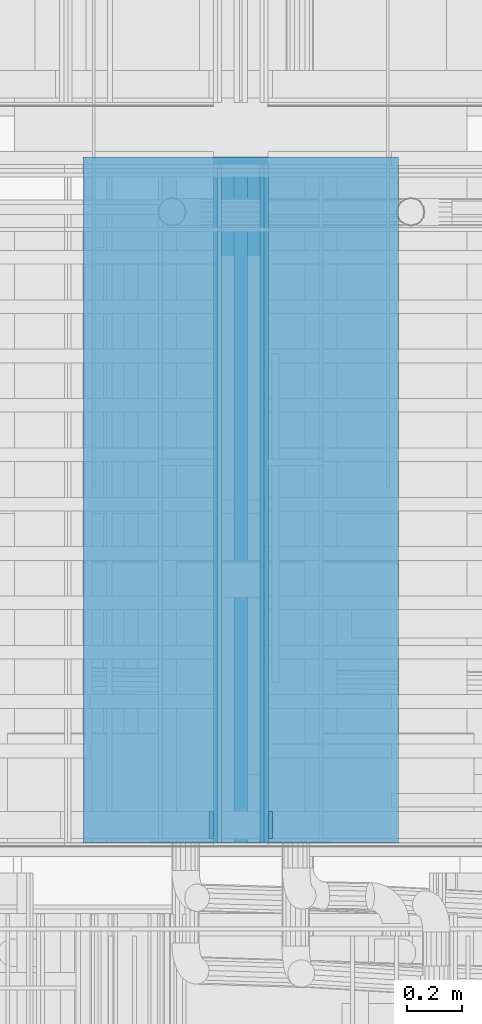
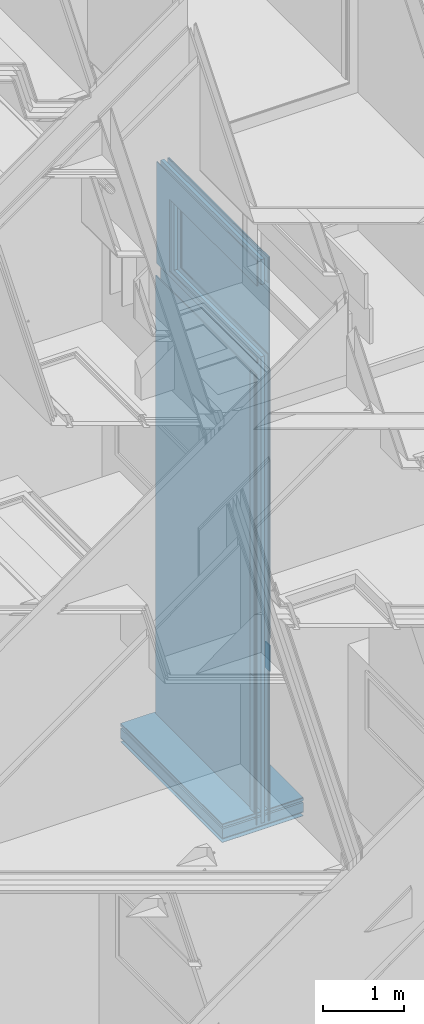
# One storey, part 148 of 583: 17 building element parts, 1 opening, 2 elements without a shape of their own.
"""IFC2X3 building model written with IfcOpenShell, lengths in metres."""

from ifc_helpers import new_model, entity, si_unit, converted_unit, derived_unit, money_unit, direction, frame, frame_2d, origin_with_axes, place, context, subcontext, project, spatial, rectangle, extrude, material, type_object, element, aggregate, save


model = new_model("IFC2X3")

# Units and contexts
model_context = context("Model", 3, precision=1e-05, world=origin_with_axes(), true_north=direction((0.0, 1.0)))
body_context = subcontext(model_context, "Body", "Model", "MODEL_VIEW", scale=1.0)
ifc_project = project(units=[si_unit("LENGTHUNIT", "METRE"), si_unit("AREAUNIT", "SQUARE_METRE"), si_unit("VOLUMEUNIT", "CUBIC_METRE"), si_unit("ABSORBEDDOSEUNIT", "GRAY"), si_unit("AMOUNTOFSUBSTANCEUNIT", "MOLE"), si_unit("DOSEEQUIVALENTUNIT", "SIEVERT"), si_unit("ELECTRICCAPACITANCEUNIT", "FARAD"), si_unit("ELECTRICCHARGEUNIT", "COULOMB"), si_unit("ELECTRICCONDUCTANCEUNIT", "SIEMENS"), si_unit("ELECTRICCURRENTUNIT", "AMPERE"), si_unit("ELECTRICRESISTANCEUNIT", "OHM"), si_unit("ELECTRICVOLTAGEUNIT", "VOLT"), si_unit("ENERGYUNIT", "JOULE"), si_unit("FORCEUNIT", "NEWTON"), si_unit("FREQUENCYUNIT", "HERTZ"), si_unit("ILLUMINANCEUNIT", "LUX"), si_unit("INDUCTANCEUNIT", "HENRY"), si_unit("LUMINOUSFLUXUNIT", "LUMEN"), si_unit("LUMINOUSINTENSITYUNIT", "CANDELA"), si_unit("MAGNETICFLUXDENSITYUNIT", "TESLA"), si_unit("MAGNETICFLUXUNIT", "WEBER"), si_unit("MASSUNIT", "GRAM"), converted_unit("PLANEANGLEUNIT", "degree", entity("IfcReal", 0.0174532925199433), si_unit("PLANEANGLEUNIT", "RADIAN"), dimensions=[0, 0, 0, 0, 0, 0, 0]), si_unit("POWERUNIT", "WATT"), si_unit("PRESSUREUNIT", "PASCAL"), si_unit("RADIOACTIVITYUNIT", "BECQUEREL"), si_unit("SOLIDANGLEUNIT", "STERADIAN"), si_unit("THERMODYNAMICTEMPERATUREUNIT", "KELVIN"), si_unit("TIMEUNIT", "SECOND"), derived_unit("ACCELERATIONUNIT", [(si_unit("LENGTHUNIT", "METRE"), 1), (si_unit("TIMEUNIT", "SECOND"), -2)]), derived_unit("ANGULARVELOCITYUNIT", [(converted_unit("PLANEANGLEUNIT", "degree", entity("IfcReal", 0.0174532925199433), si_unit("PLANEANGLEUNIT", "RADIAN"), dimensions=[0, 0, 0, 0, 0, 0, 0]), 1), (si_unit("TIMEUNIT", "SECOND"), -1)]), derived_unit("CURVATUREUNIT", [(converted_unit("PLANEANGLEUNIT", "degree", entity("IfcReal", 0.0174532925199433), si_unit("PLANEANGLEUNIT", "RADIAN"), dimensions=[0, 0, 0, 0, 0, 0, 0]), 1), (si_unit("LENGTHUNIT", "METRE"), -1)]), derived_unit("DYNAMICVISCOSITYUNIT", [(si_unit("PRESSUREUNIT", "PASCAL"), 1), (si_unit("TIMEUNIT", "SECOND"), 1)]), derived_unit("HEATFLUXDENSITYUNIT", [(si_unit("POWERUNIT", "WATT"), 1), (si_unit("LENGTHUNIT", "METRE"), -2)]), derived_unit("HEATINGVALUEUNIT", [(si_unit("ENERGYUNIT", "JOULE"), 1), (si_unit("MASSUNIT", "GRAM"), -1)]), derived_unit("INTEGERCOUNTRATEUNIT", [(si_unit("TIMEUNIT", "SECOND"), -1)]), derived_unit("IONCONCENTRATIONUNIT", [(si_unit("MASSUNIT", "GRAM"), 1), (si_unit("VOLUMEUNIT", "CUBIC_METRE"), -1)]), derived_unit("ISOTHERMALMOISTURECAPACITYUNIT", [(si_unit("VOLUMEUNIT", "CUBIC_METRE"), 1), (si_unit("MASSUNIT", "GRAM"), -1)]), derived_unit("KINEMATICVISCOSITYUNIT", [(si_unit("AREAUNIT", "SQUARE_METRE"), 1), (si_unit("TIMEUNIT", "SECOND"), -1)]), derived_unit("LINEARFORCEUNIT", [(si_unit("FORCEUNIT", "NEWTON"), 1), (si_unit("LENGTHUNIT", "METRE"), -1)]), derived_unit("LINEARMOMENTUNIT", [(si_unit("FORCEUNIT", "NEWTON"), 1), (si_unit("LENGTHUNIT", "METRE"), -1)]), derived_unit("LINEARSTIFFNESSUNIT", [(si_unit("FORCEUNIT", "NEWTON"), 1), (si_unit("LENGTHUNIT", "METRE"), -1)]), derived_unit("LINEARVELOCITYUNIT", [(si_unit("LENGTHUNIT", "METRE"), 1), (si_unit("TIMEUNIT", "SECOND"), -1)]), derived_unit("LUMINOUSINTENSITYDISTRIBUTIONUNIT", [(si_unit("LUMINOUSINTENSITYUNIT", "CANDELA"), 1), (si_unit("LUMINOUSFLUXUNIT", "LUMEN"), -1)]), derived_unit("MASSDENSITYUNIT", [(si_unit("MASSUNIT", "GRAM"), 1), (si_unit("VOLUMEUNIT", "CUBIC_METRE"), -1)]), derived_unit("MASSFLOWRATEUNIT", [(si_unit("MASSUNIT", "GRAM"), 1), (si_unit("TIMEUNIT", "SECOND"), -1)]), derived_unit("MASSPERLENGTHUNIT", [(si_unit("MASSUNIT", "GRAM"), 1), (si_unit("LENGTHUNIT", "METRE"), -1)]), derived_unit("MODULUSOFELASTICITYUNIT", [(si_unit("FORCEUNIT", "NEWTON"), 1), (si_unit("AREAUNIT", "SQUARE_METRE"), -1)]), derived_unit("MODULUSOFLINEARSUBGRADEREACTIONUNIT", [(si_unit("FORCEUNIT", "NEWTON"), 1), (si_unit("LENGTHUNIT", "METRE"), -2)]), derived_unit("MODULUSOFROTATIONALSUBGRADEREACTIONUNIT", [(si_unit("FORCEUNIT", "NEWTON"), 1), (si_unit("LENGTHUNIT", "METRE"), 1)]), derived_unit("MODULUSOFSUBGRADEREACTIONUNIT", [(si_unit("FORCEUNIT", "NEWTON"), 1), (si_unit("VOLUMEUNIT", "CUBIC_METRE"), -1)]), derived_unit("MOISTUREDIFFUSIVITYUNIT", [(si_unit("VOLUMEUNIT", "CUBIC_METRE"), 1), (si_unit("TIMEUNIT", "SECOND"), -1)]), derived_unit("MOLECULARWEIGHTUNIT", [(si_unit("MASSUNIT", "GRAM"), 1), (si_unit("AMOUNTOFSUBSTANCEUNIT", "MOLE"), -1)]), derived_unit("PLANARFORCEUNIT", [(si_unit("FORCEUNIT", "NEWTON"), 1), (si_unit("LENGTHUNIT", "METRE"), -2)]), derived_unit("ROTATIONALFREQUENCYUNIT", [(si_unit("TIMEUNIT", "SECOND"), -1)]), derived_unit("ROTATIONALMASSUNIT", [(si_unit("MASSUNIT", "GRAM"), 1), (si_unit("LENGTHUNIT", "METRE"), 2)]), derived_unit("ROTATIONALSTIFFNESSUNIT", [(si_unit("FORCEUNIT", "NEWTON"), 1), (si_unit("LENGTHUNIT", "METRE"), 1), (converted_unit("PLANEANGLEUNIT", "degree", entity("IfcReal", 0.0174532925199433), si_unit("PLANEANGLEUNIT", "RADIAN"), dimensions=[0, 0, 0, 0, 0, 0, 0]), -1)]), derived_unit("SECTIONAREAINTEGRALUNIT", [(si_unit("LENGTHUNIT", "METRE"), 5)]), derived_unit("SECTIONMODULUSUNIT", [(si_unit("LENGTHUNIT", "METRE"), 3)]), derived_unit("SHEARMODULUSUNIT", [(si_unit("FORCEUNIT", "NEWTON"), 1), (si_unit("AREAUNIT", "SQUARE_METRE"), -1)]), derived_unit("SOUNDPOWERUNIT", [(si_unit("ENERGYUNIT", "JOULE"), 1), (si_unit("TIMEUNIT", "SECOND"), -1)]), derived_unit("SPECIFICHEATCAPACITYUNIT", [(si_unit("FORCEUNIT", "NEWTON"), 1), (si_unit("MASSUNIT", "GRAM"), -1), (si_unit("THERMODYNAMICTEMPERATUREUNIT", "KELVIN"), -1)]), derived_unit("TEMPERATUREGRADIENTUNIT", [(si_unit("THERMODYNAMICTEMPERATUREUNIT", "KELVIN"), 1), (si_unit("LENGTHUNIT", "METRE"), -1)]), derived_unit("THERMALADMITTANCEUNIT", [(si_unit("POWERUNIT", "WATT"), 1), (si_unit("AREAUNIT", "SQUARE_METRE"), -1), (si_unit("THERMODYNAMICTEMPERATUREUNIT", "KELVIN"), -1)]), derived_unit("THERMALCONDUCTANCEUNIT", [(si_unit("POWERUNIT", "WATT"), 1), (si_unit("LENGTHUNIT", "METRE"), -1), (si_unit("THERMODYNAMICTEMPERATUREUNIT", "KELVIN"), -1)]), derived_unit("THERMALEXPANSIONCOEFFICIENTUNIT", [(si_unit("THERMODYNAMICTEMPERATUREUNIT", "KELVIN"), -1)]), derived_unit("THERMALRESISTANCEUNIT", [(si_unit("AREAUNIT", "SQUARE_METRE"), 1), (si_unit("POWERUNIT", "WATT"), -1)]), derived_unit("THERMALTRANSMITTANCEUNIT", [(si_unit("POWERUNIT", "WATT"), 1), (si_unit("AREAUNIT", "SQUARE_METRE"), -1), (si_unit("THERMODYNAMICTEMPERATUREUNIT", "KELVIN"), -1)]), derived_unit("TORQUEUNIT", [(si_unit("FORCEUNIT", "NEWTON"), 1), (si_unit("LENGTHUNIT", "METRE"), 1)]), derived_unit("VAPORPERMEABILITYUNIT", [(si_unit("MASSUNIT", "GRAM"), 1), (si_unit("TIMEUNIT", "SECOND"), -1)]), derived_unit("VOLUMETRICFLOWRATEUNIT", [(si_unit("VOLUMEUNIT", "CUBIC_METRE"), 1), (si_unit("TIMEUNIT", "SECOND"), -1)]), derived_unit("WARPINGCONSTANTUNIT", [(si_unit("LENGTHUNIT", "METRE"), 6)]), derived_unit("WARPINGMOMENTUNIT", [(si_unit("FORCEUNIT", "NEWTON"), 1), (si_unit("LENGTHUNIT", "METRE"), 2)]), money_unit("GBP")], contexts=[model_context])

# Site, building, storey
site_placement = place(None, origin_with_axes())
site = spatial("IfcSite", under=ifc_project, at=site_placement, Name="Site", CompositionType="ELEMENT")
building_placement = place(site_placement, origin_with_axes())
building = spatial("IfcBuilding", under=site, at=building_placement, Name="Building01", CompositionType="ELEMENT")
storey_placement = place(building_placement, frame((0.0, 0.0, 20.78), z_axis=(0.0, 0.0, 1.0), x_axis=(1.0, 0.0, 0.0)))
storey = spatial("IfcBuildingStorey", under=building, at=storey_placement, Name="RL", CompositionType="ELEMENT", Elevation=20.78)

# Wall, opening, building element parts
wall_type_1 = type_object("IfcWallType", Name="SHE_A-Walls_Type01d_Partywall_200mm_twin", PredefinedType="NOTDEFINED")
wall_1_placement = place(storey_placement, frame((7.425061, 14.98, -11.72), z_axis=(0.0, 1.0, 0.0), x_axis=(0.0, 0.0, -1.0)))
wall_1 = element("IfcWall", 1, at=wall_1_placement, inside=storey, type_object=wall_type_1, Name="1D", ObjectType="SHE_A-Walls_Type01d_Partywall_200mm_twin")
opening_placement = place(wall_1_placement, frame((0.374, 0.075, 0.0), z_axis=(0.0, 0.0, 1.0), x_axis=(1.0, 0.0, 0.0)))
element("IfcOpeningElement", 2, at=opening_placement, cuts=wall_1, Name="Opening", ObjectType="Opening", context=body_context, shape_type="SweptSolid", body=[
    extrude(rectangle(XDim=2.142, YDim=1.084, at=frame_2d((-0.542, 1.071), x_axis=(0.0, -1.0))), frame((0.0, -0.1875, 0.0), z_axis=(0.0, 1.0, 0.0), x_axis=(-1.0, 0.0, 0.0)), (0.0, 0.0, 1.0), 0.375),
])
ifc_material_1 = material(Name="A_BSUK_Insulation")
placement_1 = place(wall_1_placement, origin_with_axes())
building_element_part_1 = element("IfcBuildingElementPart", 3, at=placement_1, material=ifc_material_1, Name="1", context=body_context, shape_type="SweptSolid", body=[
    extrude(rectangle(XDim=8.460061, YDim=0.05, at=frame_2d((4.23003, -0.025), x_axis=(-1.0, 0.0))), origin_with_axes(), (0.0, 0.0, 1.0), 2.468),
])
ifc_material_2 = material(Name="A_BSUK_Walls_Timber")
building_element_part_2 = element("IfcBuildingElementPart", 4, at=placement_1, material=ifc_material_2, Name="2", context=body_context, shape_type="SweptSolid", body=[
    extrude(rectangle(XDim=0.394909, YDim=0.015, at=frame_2d((6.037454, -0.1325), x_axis=(-1.0, 0.0))), frame((0.0, 0.0, 0.015), z_axis=(0.0, 0.0, 1.0), x_axis=(1.0, 0.0, 0.0)), (0.0, 0.0, 1.0), 0.1),
])
building_element_part_3 = element("IfcBuildingElementPart", 5, at=placement_1, material=ifc_material_2, Name="3", context=body_context, shape_type="SweptSolid", body=[
    extrude(rectangle(XDim=0.394909, YDim=0.015, at=frame_2d((6.037454, -0.1325), x_axis=(-1.0, 0.0))), frame((0.0, 0.0, 0.015), z_axis=(0.0, 0.0, 1.0), x_axis=(1.0, 0.0, 0.0)), (0.0, 0.0, 1.0), 0.1),
])
ifc_material_3 = material(Name="A_BSUK_WallInternal_Finishes_Plasterboard")
building_element_part_4 = element("IfcBuildingElementPart", 6, at=placement_1, material=ifc_material_3, Name="4", context=body_context, shape_type="SweptSolid", body=[
    extrude(rectangle(XDim=6.234909, YDim=0.015, at=frame_2d((3.117454, -0.1175), x_axis=(-1.0, 0.0))), origin_with_axes(), (0.0, 0.0, 1.0), 2.468),
])
building_element_part_5 = element("IfcBuildingElementPart", 7, at=placement_1, material=ifc_material_3, Name="5", context=body_context, shape_type="SweptSolid", body=[
    extrude(rectangle(XDim=6.234909, YDim=0.015, at=frame_2d((3.117454, -0.1025), x_axis=(-1.0, 0.0))), origin_with_axes(), (0.0, 0.0, 1.0), 2.468),
])
building_element_part_6 = element("IfcBuildingElementPart", 8, at=placement_1, material=ifc_material_3, Name="6", context=body_context, shape_type="SweptSolid", body=[
    extrude(rectangle(XDim=0.015, YDim=1.53, at=frame_2d((0.765, 0.0525), x_axis=(0.0, -1.0))), origin_with_axes(), (0.0, 0.0, 1.0), 2.468),
])
building_element_part_7 = element("IfcBuildingElementPart", 9, at=placement_1, material=ifc_material_3, Name="7", context=body_context, shape_type="SweptSolid", body=[
    extrude(rectangle(XDim=6.760061, YDim=0.015, at=frame_2d((5.08003, 0.0675), x_axis=(-1.0, 0.0))), origin_with_axes(), (0.0, 0.0, 1.0), 2.468),
])
building_element_part_8 = element("IfcBuildingElementPart", 10, at=placement_1, material=ifc_material_2, Name="8", context=body_context, shape_type="SweptSolid", body=[
    extrude(rectangle(XDim=4.584909, YDim=0.015, at=frame_2d((3.992454, 0.0825), x_axis=(-1.0, 0.0))), frame((0.0, 0.0, 0.015), z_axis=(0.0, 0.0, 1.0), x_axis=(1.0, 0.0, 0.0)), (0.0, 0.0, 1.0), 0.1),
])
building_element_part_9 = element("IfcBuildingElementPart", 11, at=placement_1, material=ifc_material_2, Name="9", context=body_context, shape_type="SweptSolid", body=[
    extrude(rectangle(XDim=4.045, YDim=0.015, at=frame_2d((3.7225, -0.1325), x_axis=(-1.0, 0.0))), frame((0.0, 0.0, 0.015), z_axis=(0.0, 0.0, 1.0), x_axis=(1.0, 0.0, 0.0)), (0.0, 0.0, 1.0), 0.1),
])
building_element_part_10 = element("IfcBuildingElementPart", 12, at=placement_1, material=ifc_material_3, Name="10", context=body_context, shape_type="SweptSolid", body=[
    extrude(rectangle(XDim=6.775061, YDim=0.015, at=frame_2d((5.07253, -0.1175), x_axis=(-1.0, 0.0))), origin_with_axes(), (0.0, 0.0, 1.0), 2.468),
])
building_element_part_11 = element("IfcBuildingElementPart", 13, at=placement_1, material=ifc_material_3, Name="11", context=body_context, shape_type="SweptSolid", body=[
    extrude(rectangle(XDim=6.790061, YDim=0.015, at=frame_2d((5.06503, -0.1025), x_axis=(-1.0, 0.0))), origin_with_axes(), (0.0, 0.0, 1.0), 2.468),
])
building_element_part_12 = element("IfcBuildingElementPart", 14, at=placement_1, material=ifc_material_2, Name="12", context=body_context, shape_type="SweptSolid", body=[
    extrude(rectangle(XDim=2.225152, YDim=0.015, at=frame_2d((7.347485, 0.0825), x_axis=(-1.0, 0.0))), frame((0.0, 0.0, 0.015), z_axis=(0.0, 0.0, 1.0), x_axis=(1.0, 0.0, 0.0)), (0.0, 0.0, 1.0), 0.1),
])
aggregate(wall_1, [building_element_part_1, building_element_part_2, building_element_part_3, building_element_part_4, building_element_part_5, building_element_part_6, building_element_part_7, building_element_part_8, building_element_part_9, building_element_part_10, building_element_part_11, building_element_part_12])

# Wall, building element parts
wall_type_2 = type_object("IfcWallType", Name="SHE_A-Walls_Type06e_ExternalWallPenthouse_280mm", PredefinedType="NOTDEFINED")
wall_2_placement = place(storey_placement, frame((8.024915, 14.98, -20.215061), z_axis=(0.0, 1.0, 0.0), x_axis=(-1.0, 0.0, 0.0)))
wall_2 = element("IfcWall", 15, at=wall_2_placement, inside=storey, type_object=wall_type_2, Name="6E", ObjectType="SHE_A-Walls_Type06e_ExternalWallPenthouse_280mm")
placement_2 = place(wall_2_placement, origin_with_axes())
building_element_part_13 = element("IfcBuildingElementPart", 16, at=placement_2, material=ifc_material_1, Name="1", context=body_context, shape_type="SweptSolid", body=[
    extrude(rectangle(XDim=1.149951, YDim=0.14, at=frame_2d((0.574976, 0.07), x_axis=(-1.0, 0.0))), origin_with_axes(), (0.0, 0.0, 1.0), 2.5),
])
building_element_part_14 = element("IfcBuildingElementPart", 17, at=placement_2, material=ifc_material_1, Name="2", context=body_context, shape_type="SweptSolid", body=[
    extrude(rectangle(XDim=1.149951, YDim=0.04, at=frame_2d((0.574976, 0.185), x_axis=(-1.0, 0.0))), origin_with_axes(), (0.0, 0.0, 1.0), 2.5),
])
building_element_part_15 = element("IfcBuildingElementPart", 18, at=placement_2, material=ifc_material_3, Name="4", context=body_context, shape_type="SweptSolid", body=[
    extrude(rectangle(XDim=1.149951, YDim=0.01, at=frame_2d((0.574976, 0.21), x_axis=(-1.0, 0.0))), origin_with_axes(), (0.0, 0.0, 1.0), 2.5),
])
building_element_part_16 = element("IfcBuildingElementPart", 19, at=placement_2, material=ifc_material_2, Name="5", context=body_context, shape_type="SweptSolid", body=[
    extrude(rectangle(XDim=1.149951, YDim=0.01, at=frame_2d((0.574976, -0.005), x_axis=(-1.0, 0.0))), origin_with_axes(), (0.0, 0.0, 1.0), 2.5),
])
ifc_material_4 = material(Name="A_BSUK_WallInternal_Finishes_Metal")
building_element_part_17 = element("IfcBuildingElementPart", 20, at=placement_2, material=ifc_material_4, Name="6", context=body_context, shape_type="SweptSolid", body=[
    extrude(rectangle(XDim=1.149951, YDim=0.005, at=frame_2d((0.574976, -0.0625), x_axis=(-1.0, 0.0))), origin_with_axes(), (0.0, 0.0, 1.0), 2.5),
])
aggregate(wall_2, [building_element_part_13, building_element_part_14, building_element_part_15, building_element_part_16, building_element_part_17])

save(model, "model.ifc")
